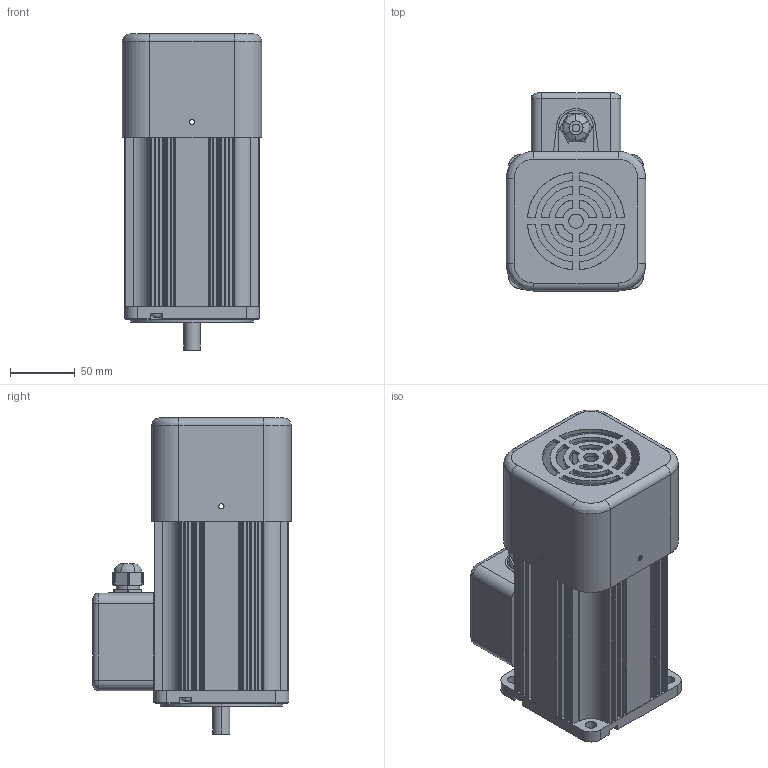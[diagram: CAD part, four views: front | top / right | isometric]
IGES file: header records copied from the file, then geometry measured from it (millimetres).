
Start section: SolidWorks IGES file using analytic representation for surfaces
Global section: file name: C:\Users\dkmｿｬｱｸｽﾇ\Desktop\ｱ箙ｯｱ秉10BDG6-400FU-T.IGS,1; native system: 5HSolidWorks 2011; preprocessor: SolidWorks 2011; author: dkmｿｬｱｸｽﾇ; date: 160329.094154; units: millimetre
Bounding box: 107.4 x 152.7 x 243.5 mm (x, y, z)
Surface area: 210175.1 mm2 (no closed solid volume)
Topology: 0 solids, 0 shells, 560 faces, 7606 edges, 7606 vertices
Faces by surface type: revolution 286, bspline 274
